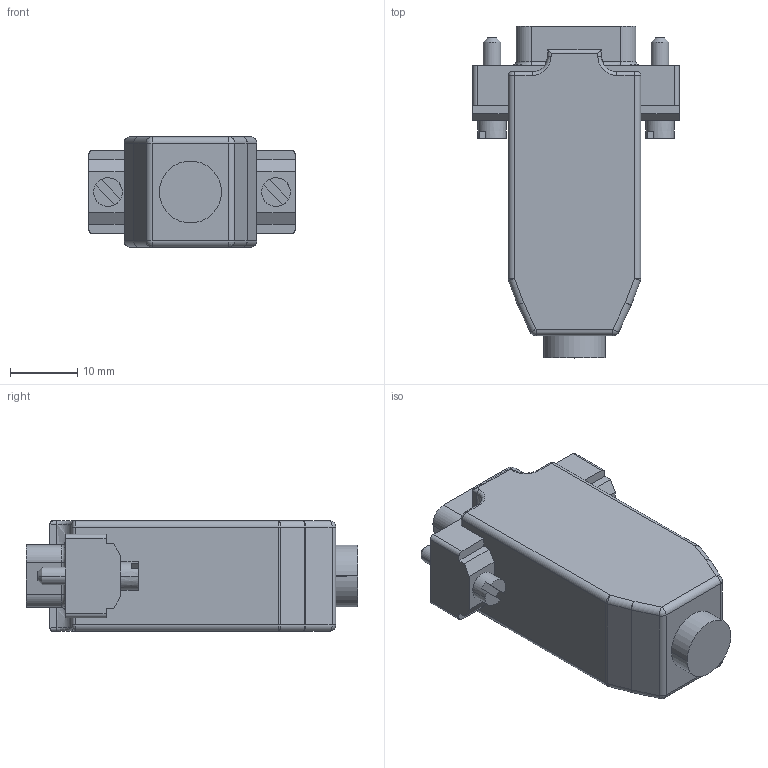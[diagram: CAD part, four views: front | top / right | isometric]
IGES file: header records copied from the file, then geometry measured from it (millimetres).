
Start section:  PTC IGES file: cu_dsub-backshell-9pos.igs
Global section: file name: cu_dsub-backshell-9pos.igs; native system: Pro/ENGINEER by Parametric Technology Corporation; preprocessor: 2006080; author: jpearson; organization: Unknown; date: 070807.161315; units: inch
Bounding box: 30.81 x 49.53 x 16.51 mm (x, y, z)
Surface area: 4726.7 mm2 (no closed solid volume)
Topology: 0 solids, 0 shells, 185 faces, 872 edges, 872 vertices
Faces by surface type: revolution 112, bspline 73
